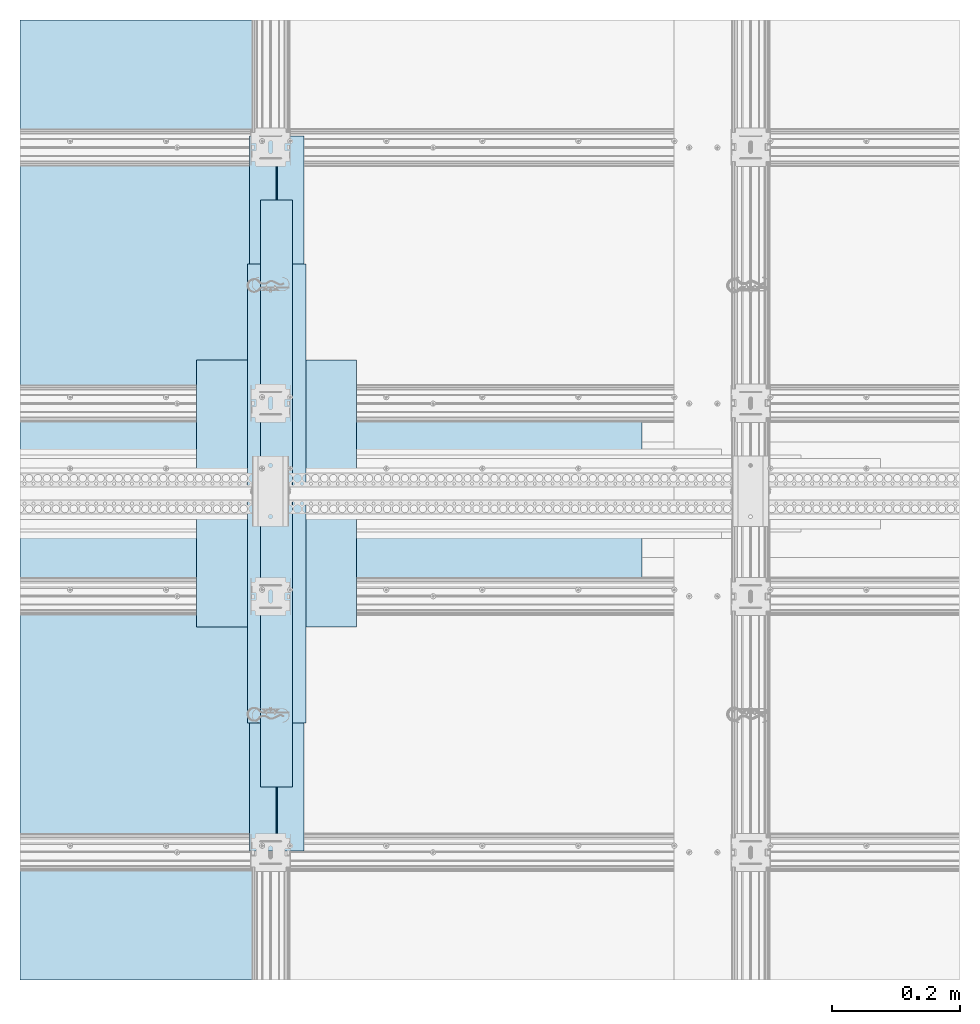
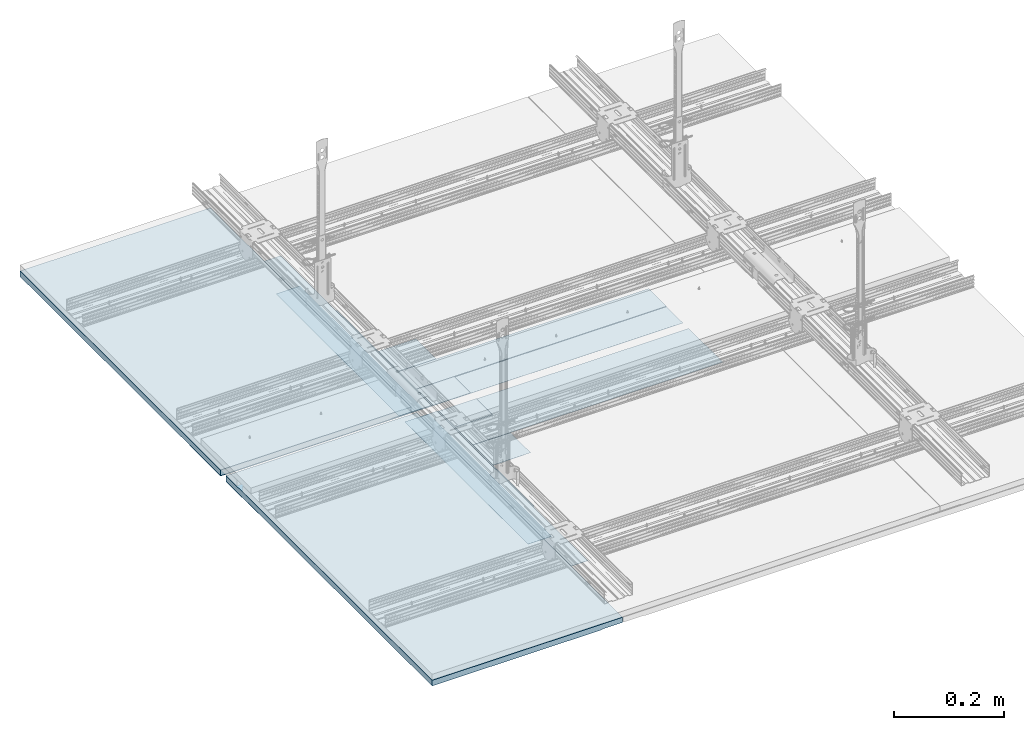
# One storey, part 5 of 73: 12 slabs.
"""IFC2X3 building model written with IfcOpenShell, lengths in millimetres."""

from ifc_helpers import new_model, entity, si_unit, converted_unit, direction, frame, origin, origin_with_axes, place, context, project, spatial, faceted_brep, element, save


model = new_model("IFC2X3")

# Units and contexts
model_context = context("Model", 3, precision=1e-05, world=origin(), true_north=direction((0.0, 1.0, 0.0)))
ifc_project = project(units=[si_unit("LENGTHUNIT", "METRE", prefix="MILLI"), si_unit("AREAUNIT", "SQUARE_METRE"), si_unit("VOLUMEUNIT", "CUBIC_METRE"), converted_unit("PLANEANGLEUNIT", "DEGREE", entity("IfcPlaneAngleMeasure", 0.01745), si_unit("PLANEANGLEUNIT", "RADIAN"), dimensions=[0, 0, 0, 0, 0, 0, 0]), si_unit("SOLIDANGLEUNIT", "STERADIAN"), si_unit("MASSUNIT", "GRAM"), si_unit("TIMEUNIT", "SECOND"), si_unit("THERMODYNAMICTEMPERATUREUNIT", "DEGREE_CELSIUS"), si_unit("LUMINOUSINTENSITYUNIT", "LUMEN")], contexts=[model_context])

# Site, building, storey
site_placement = place(None, origin_with_axes())
site = spatial("IfcSite", under=ifc_project, at=site_placement, Name="Default Site", CompositionType="ELEMENT")
building_placement = place(site_placement, origin_with_axes())
building = spatial("IfcBuilding", under=site, at=building_placement, Name="Default Building", CompositionType="ELEMENT")
storey_placement = place(building_placement, origin_with_axes())
storey = spatial("IfcBuildingStorey", under=building, at=storey_placement, Name="Default Building Storey", CompositionType="ELEMENT", Elevation=0.0)

# Slabs
slab_1_placement = place(storey_placement, frame((2542.250504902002, 850.7854072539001, 4089.065834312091), z_axis=(1.0, -9.998889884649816e-14, -2.657263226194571e-12), x_axis=(-1.537867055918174e-13, -1.0, 2.784771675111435e-12)))
element("IfcSlab", 1, at=slab_1_placement, inside=storey, Name="Dedykowana masa szpachlowa Rigips - wykończeniowa", context=model_context, shape_type="Brep", body=[
    faceted_brep([(-762.4602403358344, 3122.348552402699, 554.4180031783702), (-762.460240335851, 3122.348552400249, -417.2253714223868), (-812.4612643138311, 3122.053945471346, -417.2253714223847), (-812.4612643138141, 3122.053945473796, 554.4180031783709), (-797.4592163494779, 3122.017124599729, -417.2253714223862), (-797.4592163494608, 3122.017124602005, 554.4180031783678), (-797.4592163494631, 3121.648870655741, 554.4180031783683), (-797.4592163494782, 3121.648870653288, -417.2253714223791), (-737.4592163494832, 3122.348552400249, -417.2253714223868), (-737.4592163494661, 3122.348552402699, 554.4180031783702), (-862.4592163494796, 3121.188553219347, -417.2253714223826), (-862.4592163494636, 3121.188553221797, 554.4180031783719), (-737.4592163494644, 3122.017124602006, 554.4180031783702), (-797.4592163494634, 3121.188553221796, 554.4180031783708), (-737.4592163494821, 3122.017124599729, -417.2253714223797), (-797.45921634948, 3121.188553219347, -417.2253714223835)], [[[0, 1, 2, 3]], [[4, 5, 6, 7]], [[8, 1, 0, 9]], [[10, 11, 3, 2]], [[12, 9, 0, 3, 11, 13, 6, 5]], [[14, 8, 9, 12]], [[13, 11, 10, 15]], [[13, 15, 7, 6]], [[14, 12, 5, 4]], [[4, 7, 15, 10, 2, 1, 8, 14]]]),
])
slab_2_placement = place(storey_placement, frame((3262.898563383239, 1570.421303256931, 4358.341939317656), z_axis=(0.0, -1.0, 3.330669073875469e-16), x_axis=(1.0, 0.0, 0.0)))
element("IfcSlab", 2, at=slab_2_placement, inside=storey, Name="Dedykowana masa szpachlowa Rigips - wykończeniowa", context=model_context, shape_type="Brep", body=[
    faceted_brep([(-612.459216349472, -3390.556721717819, 2.449996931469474), (-862.459216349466, -3390.556721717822, 2.449996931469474), (-812.4612643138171, -3391.196716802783, 2.449996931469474), (-762.4602403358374, -3391.516720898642, 2.449996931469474), (-712.458192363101, -3391.51672089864, 2.449996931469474), (-662.4571683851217, -3391.19671680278, 2.449996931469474), (-762.4602403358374, -3391.516720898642, 200.8000000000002), (-812.4612643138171, -3391.196716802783, 200.8000000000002), (-862.459216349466, -3390.556721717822, 200.8000000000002), (-612.459216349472, -3390.556721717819, 200.8000000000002), (-662.4571683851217, -3391.19671680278, 200.8000000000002), (-712.458192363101, -3391.516720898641, 200.8000000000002)], [[[0, 1, 2, 3, 4, 5]], [[6, 7, 8, 9, 10, 11]], [[9, 0, 5, 10]], [[10, 5, 4, 11]], [[11, 4, 3, 6]], [[6, 3, 2, 7]], [[1, 8, 7, 2]], [[0, 9, 8, 1]]]),
])
slab_3_placement = place(storey_placement, frame((2525.43934703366, 400.2088794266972, 980.2852175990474), z_axis=(-6.72623262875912e-44, -1.0, 3.330669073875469e-16), x_axis=(-1.0, 2.128075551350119e-28, 6.389333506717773e-13)))
element("IfcSlab", 3, at=slab_3_placement, inside=storey, Name="Płyta gipsowo-kartonowa RIGIPS PRO (4PRO™)", context=model_context, shape_type="Brep", body=[
    faceted_brep([(400.4142135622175, 12.49999999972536, -418.1320433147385), (400.4142135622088, -2.468937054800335e-10, -418.1320433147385), (400.4142135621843, -2.62053845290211e-10, -1167.762426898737), (400.4142135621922, 12.4999999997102, -1167.762426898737), (44.9999999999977, 12.50000000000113, -418.1320433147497), (40.9999999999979, 11.50000000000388, -418.1320433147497), (0.9999999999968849, 11.50000000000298, -418.1320433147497), (0.7411809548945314, 11.46592582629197, -418.1320433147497), (0.4999999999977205, 11.36602540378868, -418.1320433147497), (0.29289321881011, 11.20710678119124, -418.1320433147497), (0.1339745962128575, 11.00000000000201, -418.1320433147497), (0.03407417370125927, 10.75881904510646, -418.1320433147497), (0.0, 10.50000000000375, -418.1320433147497), (0.0, 3.609557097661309e-13, -418.1320433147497), (44.9999999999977, 12.49999999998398, -1167.762426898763), (40.9999999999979, 11.49999999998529, -1167.762426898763), (0.9999999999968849, 11.49999999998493, -1167.762426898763), (0.7411809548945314, 11.46592582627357, -1167.762426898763), (0.4999999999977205, 11.36602540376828, -1167.762426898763), (0.29289321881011, 11.20710678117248, -1167.762426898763), (0.1339745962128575, 10.99999999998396, -1167.762426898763), (0.03407417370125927, 10.75881904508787, -1167.762426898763), (0.0, 10.49999999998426, -1167.762426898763), (0.0, -1.913065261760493e-11, -1167.762426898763)], [[[0, 1, 2, 3]], [[0, 4, 5, 6, 7, 8, 9, 10, 11, 12, 13, 1]], [[3, 14, 4, 0]], [[5, 4, 14, 15]], [[6, 5, 15, 16]], [[7, 6, 16, 17]], [[8, 7, 17, 18]], [[9, 8, 18, 19]], [[10, 9, 19, 20]], [[11, 10, 20, 21]], [[12, 11, 21, 22]], [[13, 12, 22, 23]], [[2, 1, 13, 23]], [[14, 3, 2, 23, 22, 21, 20, 19, 18, 17, 16, 15]]]),
])
slab_4_placement = place(storey_placement, frame((3262.898563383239, 1586.09462666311, 4358.341939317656), z_axis=(0.0, 1.0, 3.330669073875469e-16), x_axis=(1.0, 0.0, 0.0)))
element("IfcSlab", 4, at=slab_4_placement, inside=storey, Name="Dedykowana masa szpachlowa Rigips - wykończeniowa", context=model_context, shape_type="Brep", body=[
    faceted_brep([(-612.459216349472, 3390.556721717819, 2.449996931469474), (-862.459216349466, 3390.556721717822, 2.449996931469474), (-812.4612643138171, 3391.196716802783, 2.449996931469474), (-762.4602403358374, 3391.516720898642, 2.449996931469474), (-712.458192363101, 3391.51672089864, 2.449996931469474), (-662.4571683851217, 3391.19671680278, 2.449996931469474), (-762.4602403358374, 3391.516720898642, 200.8000000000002), (-812.4612643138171, 3391.196716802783, 200.8000000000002), (-862.459216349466, 3390.556721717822, 200.8000000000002), (-612.459216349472, 3390.556721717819, 200.8000000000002), (-662.4571683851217, 3391.19671680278, 200.8000000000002), (-712.458192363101, 3391.516720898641, 200.8000000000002)], [[[0, 1, 2, 3, 4, 5]], [[6, 7, 8, 9, 10, 11]], [[9, 0, 5, 10]], [[10, 5, 4, 11]], [[11, 4, 3, 6]], [[6, 3, 2, 7]], [[1, 8, 7, 2]], [[0, 9, 8, 1]]]),
])
slab_5_placement = place(storey_placement, frame((2480.439347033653, 2136.894626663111, 968.4852175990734), z_axis=(0.0, 0.0, 1.0), x_axis=(1.0, 0.0, 0.0)))
element("IfcSlab", 5, at=slab_5_placement, inside=storey, Name="Dedykowana masa szpachlowa Rigips - konstrukcyjna", context=model_context, shape_type="Brep", body=[
    faceted_brep([(46.29289321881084, 1.804778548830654e-13, 0.5928932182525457), (46.29289321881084, -548.3500030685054, 0.5928932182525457), (46.13397459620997, -548.3500030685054, 0.7999999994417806), (46.13397459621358, 1.804778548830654e-13, 0.7999999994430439), (87.00000000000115, 0.0, 0.2999999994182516), (87.00000000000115, -548.3500030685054, 0.2999999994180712), (47.00000000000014, -548.3500030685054, 0.2999999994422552), (47.00000000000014, 0.0, 0.2999999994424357), (46.74118095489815, 0.0, 0.3340741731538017), (46.74118095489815, -548.3500030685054, 0.3340741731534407), (46.49999999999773, -548.3500030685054, 0.4339745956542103), (46.49999999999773, 1.804778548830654e-13, 0.4339745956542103), (2.799999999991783, 0.0, 1.804778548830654e-13), (88.1999999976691, 0.0, 0.0), (46.03407417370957, 0.0, 1.041180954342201), (45.99999999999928, 0.0, 1.299999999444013), (46.00000000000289, 0.0, 1.999999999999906), (44.99999999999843, 0.0, 1.999999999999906), (45.00000000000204, 0.0, 1.299999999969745), (44.96592582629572, 0.0, 1.041180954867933), (44.86602540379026, 0.0, 0.7999999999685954), (44.70710678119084, -1.804778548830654e-13, 0.5928932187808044), (44.50000000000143, 0.0, 0.4339745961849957), (44.2588190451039, 0.0, 0.3340741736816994), (44.00000000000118, 0.0, 0.2999999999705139), (3.999999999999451, 0.0, 0.3000000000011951), (46.03407417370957, -548.3500030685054, 1.041180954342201), (45.99999999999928, -548.3500030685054, 1.299999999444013), (88.1999999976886, -548.3500030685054, -1.804778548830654e-13), (46.00000000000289, -548.3500030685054, 1.999999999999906), (44.99999999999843, -548.3500030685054, 1.999999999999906), (2.799999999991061, -548.3500030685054, 0.0), (3.999999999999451, -548.3500030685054, 0.3000000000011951), (44.00000000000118, -548.3500030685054, 0.2999999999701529), (44.2588190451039, -548.3500030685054, 0.3340741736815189), (44.5000000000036, -548.3500030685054, 0.433974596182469), (44.70710678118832, -548.3500030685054, 0.5928932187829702), (44.86602540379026, -548.3500030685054, 0.7999999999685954), (44.96592582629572, -548.3500030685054, 1.041180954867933), (45.00000000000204, -548.3500030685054, 1.299999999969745)], [[[0, 1, 2, 3]], [[4, 5, 6, 7]], [[8, 9, 10, 11]], [[12, 13, 4, 7, 8, 11, 0, 3, 14, 15, 16, 17, 18, 19, 20, 21, 22, 23, 24, 25]], [[14, 26, 27, 15]], [[3, 2, 26, 14]], [[7, 6, 9, 8]], [[11, 10, 1, 0]], [[4, 13, 28, 5]], [[15, 27, 29, 16]], [[30, 29, 27, 26, 2, 1, 10, 9, 6, 5, 28, 31, 32, 33, 34, 35, 36, 37, 38, 39]], [[18, 17, 30, 39]], [[19, 38, 37, 20]], [[18, 39, 38, 19]], [[24, 33, 32, 25]], [[23, 34, 33, 24]], [[20, 37, 36, 21]], [[17, 16, 29, 30]], [[21, 36, 35, 22]], [[22, 35, 34, 23]], [[25, 32, 31, 12]], [[31, 28, 13, 12]]]),
])
slab_6_placement = place(storey_placement, frame((2480.439347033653, 1019.621303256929, 968.4852175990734), z_axis=(0.0, 0.0, 1.0), x_axis=(1.0, 0.0, 0.0)))
element("IfcSlab", 6, at=slab_6_placement, inside=storey, Name="Dedykowana masa szpachlowa Rigips - konstrukcyjna", context=model_context, shape_type="Brep", body=[
    faceted_brep([(46.29289321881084, -1.804778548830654e-13, 0.5928932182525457), (46.29289321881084, 548.3500030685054, 0.5928932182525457), (46.13397459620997, 548.3500030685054, 0.7999999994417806), (46.13397459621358, -1.804778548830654e-13, 0.7999999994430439), (87.00000000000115, 0.0, 0.2999999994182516), (87.00000000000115, 548.3500030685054, 0.2999999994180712), (47.00000000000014, 548.3500030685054, 0.2999999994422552), (47.00000000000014, 0.0, 0.2999999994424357), (46.74118095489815, 0.0, 0.3340741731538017), (46.74118095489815, 548.3500030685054, 0.3340741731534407), (46.49999999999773, 548.3500030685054, 0.4339745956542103), (46.49999999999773, -1.804778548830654e-13, 0.4339745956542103), (2.799999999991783, 0.0, 1.804778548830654e-13), (88.1999999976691, 0.0, 0.0), (46.03407417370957, 0.0, 1.041180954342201), (45.99999999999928, 0.0, 1.299999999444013), (46.00000000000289, 0.0, 1.999999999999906), (44.99999999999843, 0.0, 1.999999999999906), (45.00000000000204, 0.0, 1.299999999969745), (44.96592582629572, 0.0, 1.041180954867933), (44.86602540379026, 0.0, 0.7999999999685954), (44.70710678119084, 1.804778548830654e-13, 0.5928932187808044), (44.50000000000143, 0.0, 0.4339745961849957), (44.2588190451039, 0.0, 0.3340741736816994), (44.00000000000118, 0.0, 0.2999999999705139), (3.999999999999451, 0.0, 0.3000000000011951), (46.03407417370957, 548.3500030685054, 1.041180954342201), (45.99999999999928, 548.3500030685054, 1.299999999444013), (88.1999999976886, 548.3500030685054, -1.804778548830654e-13), (46.00000000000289, 548.3500030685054, 1.999999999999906), (44.99999999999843, 548.3500030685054, 1.999999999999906), (2.799999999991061, 548.3500030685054, 0.0), (3.999999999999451, 548.3500030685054, 0.3000000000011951), (44.00000000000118, 548.3500030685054, 0.2999999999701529), (44.2588190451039, 548.3500030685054, 0.3340741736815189), (44.5000000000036, 548.3500030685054, 0.433974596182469), (44.70710678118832, 548.3500030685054, 0.5928932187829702), (44.86602540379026, 548.3500030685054, 0.7999999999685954), (44.96592582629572, 548.3500030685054, 1.041180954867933), (45.00000000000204, 548.3500030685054, 1.299999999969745)], [[[0, 1, 2, 3]], [[4, 5, 6, 7]], [[8, 9, 10, 11]], [[12, 13, 4, 7, 8, 11, 0, 3, 14, 15, 16, 17, 18, 19, 20, 21, 22, 23, 24, 25]], [[14, 26, 27, 15]], [[3, 2, 26, 14]], [[7, 6, 9, 8]], [[11, 10, 1, 0]], [[4, 13, 28, 5]], [[15, 27, 29, 16]], [[30, 29, 27, 26, 2, 1, 10, 9, 6, 5, 28, 31, 32, 33, 34, 35, 36, 37, 38, 39]], [[18, 17, 30, 39]], [[19, 38, 37, 20]], [[18, 39, 38, 19]], [[24, 33, 32, 25]], [[23, 34, 33, 24]], [[20, 37, 36, 21]], [[17, 16, 29, 30]], [[21, 36, 35, 22]], [[22, 35, 34, 23]], [[25, 32, 31, 12]], [[31, 28, 13, 12]]]),
])
slab_7_placement = place(storey_placement, frame((3262.898563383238, 1586.09462666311, 4358.141939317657), z_axis=(2.257951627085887e-47, 1.0, 3.330669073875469e-16), x_axis=(1.0, -2.257951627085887e-47, -7.520489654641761e-63)))
element("IfcSlab", 7, at=slab_7_placement, inside=storey, Name="Taśma spoinowa RIGIPS", context=model_context, shape_type="Brep", body=[
    faceted_brep([(-712.4592163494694, 3389.656721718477, 450.8), (-712.4592163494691, 3389.856721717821, 450.8), (-762.4592163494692, 3389.856721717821, 450.8), (-762.4592163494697, 3389.656721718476, 450.8), (-712.4592163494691, 3389.856721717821, 2.449996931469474), (-712.4592163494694, 3389.656721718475, 2.449996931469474), (-762.4592163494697, 3389.656721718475, 2.449996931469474), (-762.4592163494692, 3389.856721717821, 2.449996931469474)], [[[0, 1, 2, 3]], [[4, 5, 6, 7]], [[5, 0, 3, 6]], [[6, 3, 2, 7]], [[7, 2, 1, 4]], [[4, 1, 0, 5]]]),
])
slab_8_placement = place(storey_placement, frame((3262.898563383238, 1570.421303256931, 4358.141939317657), z_axis=(2.257951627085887e-47, -1.0, 3.330669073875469e-16), x_axis=(1.0, 2.257951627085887e-47, -7.520489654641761e-63)))
element("IfcSlab", 8, at=slab_8_placement, inside=storey, Name="Taśma spoinowa RIGIPS", context=model_context, shape_type="Brep", body=[
    faceted_brep([(-712.4592163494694, -3389.656721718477, 450.8), (-712.4592163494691, -3389.856721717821, 450.8), (-762.4592163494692, -3389.856721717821, 450.8), (-762.4592163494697, -3389.656721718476, 450.8), (-712.4592163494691, -3389.856721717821, 2.449996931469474), (-712.4592163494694, -3389.656721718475, 2.449996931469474), (-762.4592163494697, -3389.656721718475, 2.449996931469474), (-762.4592163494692, -3389.856721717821, 2.449996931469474)], [[[0, 1, 2, 3]], [[4, 5, 6, 7]], [[5, 0, 3, 6]], [[6, 3, 2, 7]], [[7, 2, 1, 4]], [[4, 1, 0, 5]]]),
])
slab_9_placement = place(storey_placement, frame((2480.439347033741, 1936.894626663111, 967.7852175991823), z_axis=(0.0, 0.0, 1.0), x_axis=(1.0, 0.0, 0.0)))
element("IfcSlab", 9, at=slab_9_placement, inside=storey, Name="Dedykowana masa szpachlowa Rigips - konstrukcyjna", context=model_context, shape_type="Brep", body=[
    faceted_brep([(90.99999999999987, 0.0, 0.0), (90.99999999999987, -348.350003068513, 0.0), (88.19999999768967, -348.350003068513, 0.6999999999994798), (88.19999999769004, 0.0, 0.6999999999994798), (20.00000000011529, -3.609557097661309e-13, 0.2999999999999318), (20.00000000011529, -348.350003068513, 0.2999999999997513), (20.00000000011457, -348.350003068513, 0.6999999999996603), (20.00000000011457, -5.414335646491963e-13, 0.6999999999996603), (70.00000000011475, -1.804778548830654e-13, 0.3000000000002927), (70.00000000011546, -348.350003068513, 0.2999999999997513), (70.00000000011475, -1.263344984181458e-12, 0.6999999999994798), (70.00000000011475, -348.350003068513, 0.6999999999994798), (0.0, 0.0, 0.0), (0.0, -348.350003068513, 0.0), (2.799999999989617, -348.350003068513, 0.6999999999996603), (2.800000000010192, -5.414335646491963e-13, 0.6999999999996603)], [[[0, 1, 2, 3]], [[4, 5, 6, 7]], [[8, 9, 5, 4]], [[8, 10, 11, 9]], [[2, 11, 10, 3]], [[0, 12, 13, 1]], [[14, 6, 5, 9, 11, 2, 1, 13]], [[12, 15, 14, 13]], [[15, 7, 6, 14]], [[3, 10, 8, 4, 7, 15, 12, 0]]]),
])
slab_10_placement = place(storey_placement, frame((2525.439347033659, 2756.307050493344, 980.2852175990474), z_axis=(-1.121038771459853e-43, 1.0, 3.330669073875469e-16), x_axis=(-1.0, -2.12807555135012e-28, 6.389333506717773e-13)))
element("IfcSlab", 10, at=slab_10_placement, inside=storey, Name="Płyta gipsowo-kartonowa RIGIPS PRO (4PRO™)", context=model_context, shape_type="Brep", body=[
    faceted_brep([(400.4142135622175, -12.49999999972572, -438.1320433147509), (400.4142135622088, 2.465327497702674e-10, -438.1320433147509), (400.4142135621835, 2.61873367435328e-10, -1167.762426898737), (400.4142135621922, -12.49999999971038, -1167.762426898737), (44.9999999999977, -12.50000000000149, -438.1320433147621), (40.9999999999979, -11.50000000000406, -438.1320433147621), (0.9999999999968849, -11.50000000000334, -438.1320433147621), (0.7411809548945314, -11.46592582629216, -438.1320433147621), (0.4999999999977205, -11.36602540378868, -438.1320433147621), (0.29289321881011, -11.20710678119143, -438.1320433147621), (0.1339745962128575, -11.00000000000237, -438.1320433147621), (0.03407417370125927, -10.75881904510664, -438.1320433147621), (-3.609557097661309e-13, -10.50000000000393, -438.1320433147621), (0.0, -5.414335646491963e-13, -438.1320433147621), (44.9999999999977, -12.49999999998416, -1167.762426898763), (40.9999999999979, -11.49999999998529, -1167.762426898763), (0.9999999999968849, -11.49999999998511, -1167.762426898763), (0.7411809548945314, -11.46592582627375, -1167.762426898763), (0.4999999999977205, -11.36602540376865, -1167.762426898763), (0.29289321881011, -11.20710678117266, -1167.762426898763), (0.1339745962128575, -10.99999999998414, -1167.762426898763), (0.03407417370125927, -10.75881904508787, -1167.762426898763), (-3.609557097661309e-13, -10.49999999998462, -1167.762426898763), (0.0, 1.876969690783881e-11, -1167.762426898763)], [[[0, 1, 2, 3]], [[0, 4, 5, 6, 7, 8, 9, 10, 11, 12, 13, 1]], [[3, 14, 4, 0]], [[5, 4, 14, 15]], [[6, 5, 15, 16]], [[7, 6, 16, 17]], [[8, 7, 17, 18]], [[9, 8, 18, 19]], [[10, 9, 19, 20]], [[11, 10, 20, 21]], [[12, 11, 21, 22]], [[13, 12, 22, 23]], [[2, 1, 13, 23]], [[14, 3, 2, 23, 22, 21, 20, 19, 18, 17, 16, 15]]]),
])
slab_11_placement = place(storey_placement, frame((2480.439347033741, 1219.62130325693, 967.7852175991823), z_axis=(0.0, 0.0, 1.0), x_axis=(1.0, 0.0, 0.0)))
element("IfcSlab", 11, at=slab_11_placement, inside=storey, Name="Dedykowana masa szpachlowa Rigips - konstrukcyjna", context=model_context, shape_type="Brep", body=[
    faceted_brep([(90.99999999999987, 0.0, 0.0), (90.99999999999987, 348.350003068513, 0.0), (88.19999999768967, 348.350003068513, 0.6999999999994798), (88.19999999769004, 0.0, 0.6999999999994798), (20.00000000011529, 3.609557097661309e-13, 0.2999999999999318), (20.00000000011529, 348.350003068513, 0.2999999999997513), (20.00000000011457, 348.350003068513, 0.6999999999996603), (20.00000000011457, 5.414335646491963e-13, 0.6999999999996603), (70.00000000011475, 1.804778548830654e-13, 0.3000000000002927), (70.00000000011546, 348.350003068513, 0.2999999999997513), (70.00000000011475, 1.263344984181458e-12, 0.6999999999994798), (70.00000000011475, 348.350003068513, 0.6999999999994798), (0.0, 0.0, 0.0), (0.0, 348.350003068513, 0.0), (2.799999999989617, 348.350003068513, 0.6999999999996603), (2.800000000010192, 5.414335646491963e-13, 0.6999999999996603)], [[[0, 1, 2, 3]], [[4, 5, 6, 7]], [[8, 9, 5, 4]], [[8, 10, 11, 9]], [[2, 11, 10, 3]], [[0, 12, 13, 1]], [[14, 6, 5, 9, 11, 2, 1, 13]], [[12, 15, 14, 13]], [[15, 7, 6, 14]], [[3, 10, 8, 4, 7, 15, 12, 0]]]),
])
slab_12_placement = place(storey_placement, frame((2542.250504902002, 2305.73052266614, 4089.065834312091), z_axis=(1.0, 9.998889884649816e-14, -2.657263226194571e-12), x_axis=(-1.537867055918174e-13, 1.0, 2.784771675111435e-12)))
element("IfcSlab", 12, at=slab_12_placement, inside=storey, Name="Dedykowana masa szpachlowa Rigips - wykończeniowa", context=model_context, shape_type="Brep", body=[
    faceted_brep([(-762.4602403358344, -3122.348552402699, 554.4180031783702), (-762.460240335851, -3122.348552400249, -417.2253714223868), (-812.4612643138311, -3122.053945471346, -417.2253714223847), (-812.4612643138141, -3122.053945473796, 554.4180031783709), (-797.4592163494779, -3122.017124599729, -417.2253714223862), (-797.4592163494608, -3122.017124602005, 554.4180031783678), (-797.4592163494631, -3121.648870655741, 554.4180031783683), (-797.4592163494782, -3121.648870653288, -417.2253714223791), (-737.4592163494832, -3122.348552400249, -417.2253714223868), (-737.4592163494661, -3122.348552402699, 554.4180031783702), (-862.4592163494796, -3121.188553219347, -417.2253714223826), (-862.4592163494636, -3121.188553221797, 554.4180031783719), (-737.4592163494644, -3122.017124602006, 554.4180031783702), (-797.4592163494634, -3121.188553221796, 554.4180031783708), (-737.4592163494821, -3122.017124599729, -417.2253714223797), (-797.45921634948, -3121.188553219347, -417.2253714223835)], [[[0, 1, 2, 3]], [[4, 5, 6, 7]], [[8, 1, 0, 9]], [[10, 11, 3, 2]], [[12, 9, 0, 3, 11, 13, 6, 5]], [[14, 8, 9, 12]], [[13, 11, 10, 15]], [[13, 15, 7, 6]], [[14, 12, 5, 4]], [[4, 7, 15, 10, 2, 1, 8, 14]]]),
])

save(model, "model.ifc")
